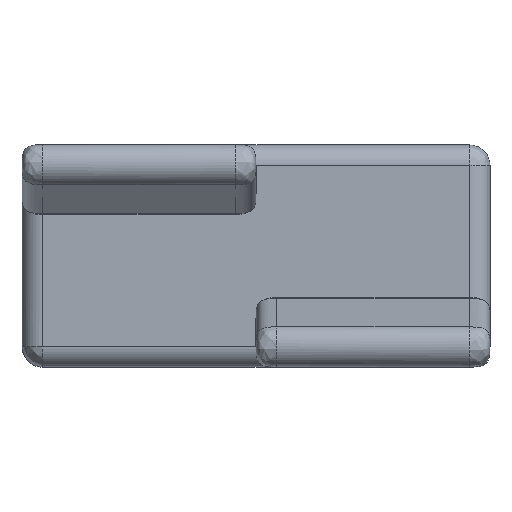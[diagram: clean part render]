
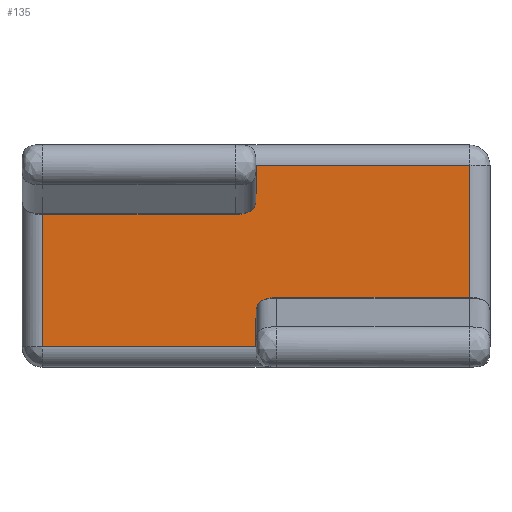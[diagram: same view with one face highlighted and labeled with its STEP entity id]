
A CAD part, top view. The second image highlights one B-rep face of the part: STEP entity #135.
In plain terms, the highlighted free-form (B-spline) face has degree [1, 1] with [2, 2] control points.
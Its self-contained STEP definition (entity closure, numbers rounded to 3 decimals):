
#77=(
BOUNDED_SURFACE()
B_SPLINE_SURFACE(3,1,((#2430,#2431),(#2432,#2433),(#2434,#2435),(#2436,
#2437)),.UNSPECIFIED.,.F.,.F.,.F.)
B_SPLINE_SURFACE_WITH_KNOTS((4,4),(2,2),(0.,1.),(0.,1.),.UNSPECIFIED.)
GEOMETRIC_REPRESENTATION_ITEM()
RATIONAL_B_SPLINE_SURFACE(((1.,1.),(0.805,0.805),
(0.805,0.805),(1.,1.)))
REPRESENTATION_ITEM('')
SURFACE()
);
#81=(
BOUNDED_SURFACE()
B_SPLINE_SURFACE(3,1,((#2482,#2483),(#2484,#2485),(#2486,#2487),(#2488,
#2489)),.UNSPECIFIED.,.F.,.F.,.F.)
B_SPLINE_SURFACE_WITH_KNOTS((4,4),(2,2),(0.,1.),(0.,1.),.UNSPECIFIED.)
GEOMETRIC_REPRESENTATION_ITEM()
RATIONAL_B_SPLINE_SURFACE(((1.,1.),(0.805,0.805),
(0.805,0.805),(1.,1.)))
REPRESENTATION_ITEM('')
SURFACE()
);
#84=(
BOUNDED_SURFACE()
B_SPLINE_SURFACE(3,1,((#2518,#2519),(#2520,#2521),(#2522,#2523),(#2524,
#2525)),.UNSPECIFIED.,.F.,.F.,.F.)
B_SPLINE_SURFACE_WITH_KNOTS((4,4),(2,2),(0.,1.),(0.,1.),.UNSPECIFIED.)
GEOMETRIC_REPRESENTATION_ITEM()
RATIONAL_B_SPLINE_SURFACE(((1.,1.),(0.805,0.805),
(0.805,0.805),(1.,1.)))
REPRESENTATION_ITEM('')
SURFACE()
);
#85=(
BOUNDED_SURFACE()
B_SPLINE_SURFACE(3,1,((#2526,#2527),(#2528,#2529),(#2530,#2531),(#2532,
#2533)),.UNSPECIFIED.,.F.,.F.,.F.)
B_SPLINE_SURFACE_WITH_KNOTS((4,4),(2,2),(0.,1.),(0.,1.),.UNSPECIFIED.)
GEOMETRIC_REPRESENTATION_ITEM()
RATIONAL_B_SPLINE_SURFACE(((1.,1.),(0.805,0.805),
(0.805,0.805),(1.,1.)))
REPRESENTATION_ITEM('')
SURFACE()
);
#135=ADVANCED_FACE('',(#207),#1572,.T.);
#207=FACE_OUTER_BOUND('',#279,.T.);
#279=EDGE_LOOP('',(#399,#400,#401,#402));
#399=ORIENTED_EDGE('',*,*,#1384,.T.);
#400=ORIENTED_EDGE('',*,*,#1385,.T.);
#401=ORIENTED_EDGE('',*,*,#1375,.F.);
#402=ORIENTED_EDGE('',*,*,#1386,.T.);
#674=PCURVE('',#77,#962);
#687=PCURVE('',#1572,#975);
#688=PCURVE('',#1572,#976);
#689=PCURVE('',#1572,#977);
#690=PCURVE('',#1572,#978);
#694=PCURVE('',#81,#982);
#716=PCURVE('',#84,#1004);
#720=PCURVE('',#85,#1008);
#962=DEFINITIONAL_REPRESENTATION('',(#1679),#5226);
#975=DEFINITIONAL_REPRESENTATION('',(#1697),#5226);
#976=DEFINITIONAL_REPRESENTATION('',(#1699),#5226);
#977=DEFINITIONAL_REPRESENTATION('',(#1700),#5226);
#978=DEFINITIONAL_REPRESENTATION('',(#1702),#5226);
#982=DEFINITIONAL_REPRESENTATION('',(#1707),#5226);
#1004=DEFINITIONAL_REPRESENTATION('',(#1737),#5226);
#1008=DEFINITIONAL_REPRESENTATION('',(#1742),#5226);
#1231=SURFACE_CURVE('',#1678,(#674,#689),.PCURVE_S1.);
#1240=SURFACE_CURVE('',#1696,(#687,#720),.PCURVE_S1.);
#1241=SURFACE_CURVE('',#1698,(#688,#694),.PCURVE_S1.);
#1242=SURFACE_CURVE('',#1701,(#690,#716),.PCURVE_S1.);
#1375=EDGE_CURVE('',#1508,#1493,#1231,.T.);
#1384=EDGE_CURVE('',#1509,#1499,#1240,.T.);
#1385=EDGE_CURVE('',#1499,#1493,#1241,.T.);
#1386=EDGE_CURVE('',#1508,#1509,#1242,.T.);
#1493=VERTEX_POINT('',#2586);
#1499=VERTEX_POINT('',#2592);
#1508=VERTEX_POINT('',#2601);
#1509=VERTEX_POINT('',#2602);
#1572=B_SPLINE_SURFACE_WITH_KNOTS('',1,1,((#2478,#2479),(#2480,#2481)),
 .UNSPECIFIED.,.F.,.F.,.F.,(2,2),(2,2),(-725.,725.),(-307.5,
307.5),.UNSPECIFIED.);
#1678=B_SPLINE_CURVE_WITH_KNOTS('',1,(#2777,#2778),.UNSPECIFIED.,.F.,.F.,
(2,2),(0.,1.),.UNSPECIFIED.);
#1679=B_SPLINE_CURVE_WITH_KNOTS('',1,(#2779,#2780),.UNSPECIFIED.,.F.,.F.,
(2,2),(0.,1.),.UNSPECIFIED.);
#1696=B_SPLINE_CURVE_WITH_KNOTS('',1,(#2852,#2853),.UNSPECIFIED.,.F.,.F.,
(2,2),(0.,1.),.UNSPECIFIED.);
#1697=B_SPLINE_CURVE_WITH_KNOTS('',1,(#2854,#2855),.UNSPECIFIED.,.F.,.F.,
(2,2),(0.,1.),.UNSPECIFIED.);
#1698=B_SPLINE_CURVE_WITH_KNOTS('',1,(#2856,#2857),.UNSPECIFIED.,.F.,.F.,
(2,2),(0.,1.),.UNSPECIFIED.);
#1699=B_SPLINE_CURVE_WITH_KNOTS('',1,(#2858,#2859),.UNSPECIFIED.,.F.,.F.,
(2,2),(0.,1.),.UNSPECIFIED.);
#1700=B_SPLINE_CURVE_WITH_KNOTS('',1,(#2860,#2861),.UNSPECIFIED.,.F.,.F.,
(2,2),(0.,1.),.UNSPECIFIED.);
#1701=B_SPLINE_CURVE_WITH_KNOTS('',1,(#2862,#2863),.UNSPECIFIED.,.F.,.F.,
(2,2),(-1.,0.),.UNSPECIFIED.);
#1702=B_SPLINE_CURVE_WITH_KNOTS('',1,(#2864,#2865),.UNSPECIFIED.,.F.,.F.,
(2,2),(-1.,0.),.UNSPECIFIED.);
#1707=B_SPLINE_CURVE_WITH_KNOTS('',1,(#2968,#2969),.UNSPECIFIED.,.F.,.F.,
(2,2),(0.,1.),.UNSPECIFIED.);
#1737=B_SPLINE_CURVE_WITH_KNOTS('',1,(#3274,#3275),.UNSPECIFIED.,.F.,.F.,
(2,2),(-1.,0.),.UNSPECIFIED.);
#1742=B_SPLINE_CURVE_WITH_KNOTS('',1,(#3342,#3343),.UNSPECIFIED.,.F.,.F.,
(2,2),(0.,1.),.UNSPECIFIED.);
#2430=CARTESIAN_POINT('',(725.,-307.5,470.));
#2431=CARTESIAN_POINT('',(725.,307.5,470.));
#2432=CARTESIAN_POINT('',(766.005,-307.5,470.));
#2433=CARTESIAN_POINT('',(766.005,307.5,470.));
#2434=CARTESIAN_POINT('',(795.,-307.5,441.005));
#2435=CARTESIAN_POINT('',(795.,307.5,441.005));
#2436=CARTESIAN_POINT('',(795.,-307.5,400.));
#2437=CARTESIAN_POINT('',(795.,307.5,400.));
#2478=CARTESIAN_POINT('',(-725.,-307.5,470.));
#2479=CARTESIAN_POINT('',(-725.,307.5,470.));
#2480=CARTESIAN_POINT('',(725.,-307.5,470.));
#2481=CARTESIAN_POINT('',(725.,307.5,470.));
#2482=CARTESIAN_POINT('',(725.,-377.5,400.));
#2483=CARTESIAN_POINT('',(-725.,-377.5,400.));
#2484=CARTESIAN_POINT('',(725.,-375.088,444.102));
#2485=CARTESIAN_POINT('',(-725.,-375.088,444.102));
#2486=CARTESIAN_POINT('',(725.,-351.602,467.588));
#2487=CARTESIAN_POINT('',(-725.,-351.602,467.588));
#2488=CARTESIAN_POINT('',(725.,-307.5,470.));
#2489=CARTESIAN_POINT('',(-725.,-307.5,470.));
#2518=CARTESIAN_POINT('',(725.,307.5,470.));
#2519=CARTESIAN_POINT('',(-725.,307.5,470.));
#2520=CARTESIAN_POINT('',(725.,351.602,467.588));
#2521=CARTESIAN_POINT('',(-725.,351.602,467.588));
#2522=CARTESIAN_POINT('',(725.,375.088,444.102));
#2523=CARTESIAN_POINT('',(-725.,375.088,444.102));
#2524=CARTESIAN_POINT('',(725.,377.5,400.));
#2525=CARTESIAN_POINT('',(-725.,377.5,400.));
#2526=CARTESIAN_POINT('',(-725.,307.5,470.));
#2527=CARTESIAN_POINT('',(-725.,-307.5,470.));
#2528=CARTESIAN_POINT('',(-766.005,307.5,470.));
#2529=CARTESIAN_POINT('',(-766.005,-307.5,470.));
#2530=CARTESIAN_POINT('',(-795.,307.5,441.005));
#2531=CARTESIAN_POINT('',(-795.,-307.5,441.005));
#2532=CARTESIAN_POINT('',(-795.,307.5,400.));
#2533=CARTESIAN_POINT('',(-795.,-307.5,400.));
#2586=CARTESIAN_POINT('',(725.,-307.5,470.));
#2592=CARTESIAN_POINT('',(-725.,-307.5,470.));
#2601=CARTESIAN_POINT('',(725.,307.5,470.));
#2602=CARTESIAN_POINT('',(-725.,307.5,470.));
#2777=CARTESIAN_POINT('',(725.,307.5,470.));
#2778=CARTESIAN_POINT('',(725.,-307.5,470.));
#2779=CARTESIAN_POINT('',(0.,1.));
#2780=CARTESIAN_POINT('',(0.,0.));
#2852=CARTESIAN_POINT('',(-725.,307.5,470.));
#2853=CARTESIAN_POINT('',(-725.,-307.5,470.));
#2854=CARTESIAN_POINT('',(-725.,307.5));
#2855=CARTESIAN_POINT('',(-725.,-307.5));
#2856=CARTESIAN_POINT('',(-725.,-307.5,470.));
#2857=CARTESIAN_POINT('',(725.,-307.5,470.));
#2858=CARTESIAN_POINT('',(-725.,-307.5));
#2859=CARTESIAN_POINT('',(725.,-307.5));
#2860=CARTESIAN_POINT('',(725.,307.5));
#2861=CARTESIAN_POINT('',(725.,-307.5));
#2862=CARTESIAN_POINT('',(725.,307.5,470.));
#2863=CARTESIAN_POINT('',(-725.,307.5,470.));
#2864=CARTESIAN_POINT('',(725.,307.5));
#2865=CARTESIAN_POINT('',(-725.,307.5));
#2968=CARTESIAN_POINT('',(1.,1.));
#2969=CARTESIAN_POINT('',(1.,0.));
#3274=CARTESIAN_POINT('',(0.,0.));
#3275=CARTESIAN_POINT('',(0.,1.));
#3342=CARTESIAN_POINT('',(0.,0.));
#3343=CARTESIAN_POINT('',(0.,1.));
#5226=(
GEOMETRIC_REPRESENTATION_CONTEXT(2)
PARAMETRIC_REPRESENTATION_CONTEXT()
REPRESENTATION_CONTEXT('pspace','')
);
